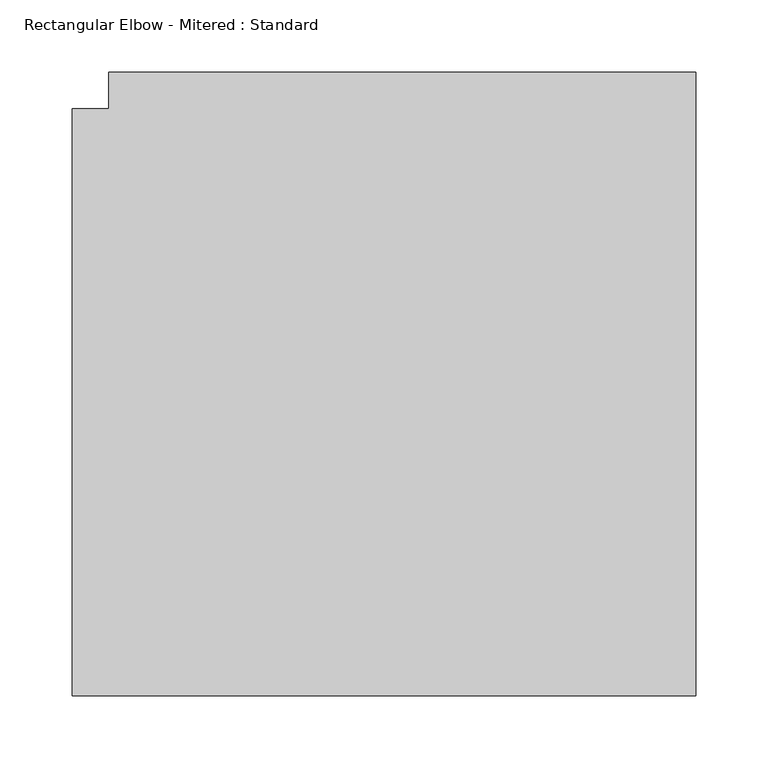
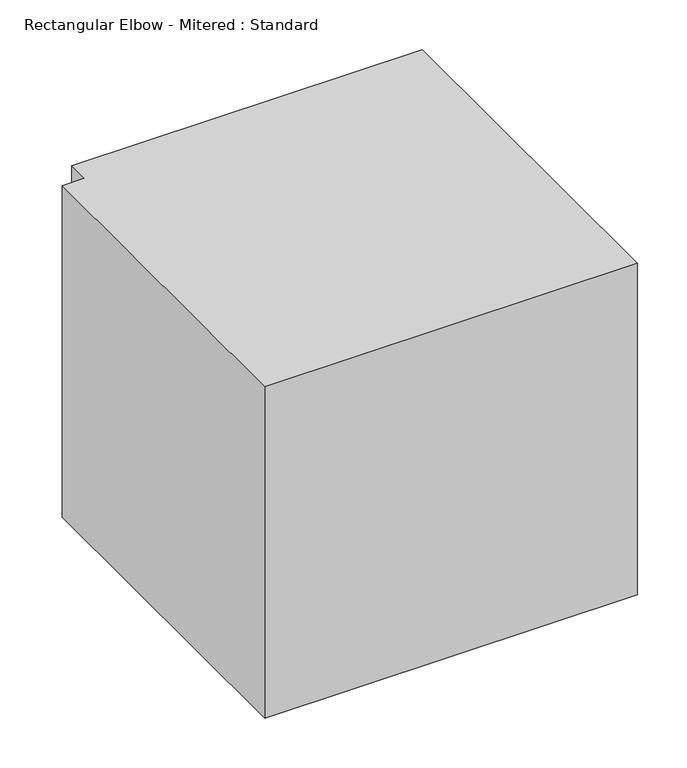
"""IFC4 building model written with IfcOpenShell, lengths in millimetres: duct fitting geometry, Rectangular Elbow - Mitered : Standard."""

from ifc_helpers import new_model, si_unit, frame, origin, place, context, project, spatial, polyline, outline, extrude, source, transform, mapped, element, save


def rectangular_elbow_mitered_standard_d1889adf(model_context):
    return source(origin(), model_context, "Body", "SweptSolid", [
        extrude(outline(polyline([(-228.6, -203.2), (-228.6, 203.2), (-203.2, 203.2), (-203.2, 228.6), (203.2, 228.6), (203.2, -203.2), (-228.6, -203.2)])), frame((0.0, 0.0, -203.2), z_axis=(0.0, 0.0, 1.0), x_axis=(1.0, 0.0, 0.0)), (0.0, 0.0, 1.0), 406.4),
    ])


if __name__ == "__main__":
    model = new_model("IFC4")
    model_context = context("Model", 3, world=origin())
    ifc_project = project(units=[si_unit("LENGTHUNIT", "METRE", prefix="MILLI")], contexts=[model_context])
    site = spatial("IfcSite", under=ifc_project)
    building = spatial("IfcBuilding", under=site)
    placement = place(None, origin())
    rectangular_elbow_mitered_standard_shape = rectangular_elbow_mitered_standard_d1889adf(model_context)
    element("IfcDuctFitting", 1, ObjectType="Rectangular Elbow - Mitered : Standard", at=placement, inside=building, context=model_context, shape_type="MappedRepresentation", body=[
        mapped(rectangular_elbow_mitered_standard_shape, transform((0.0, 0.0, 0.0), x_axis=(1.0, 0.0, 0.0), y_axis=(0.0, 1.0, 0.0), z_axis=(0.0, 0.0, 1.0))),
    ])
    save(model, "model.ifc")
